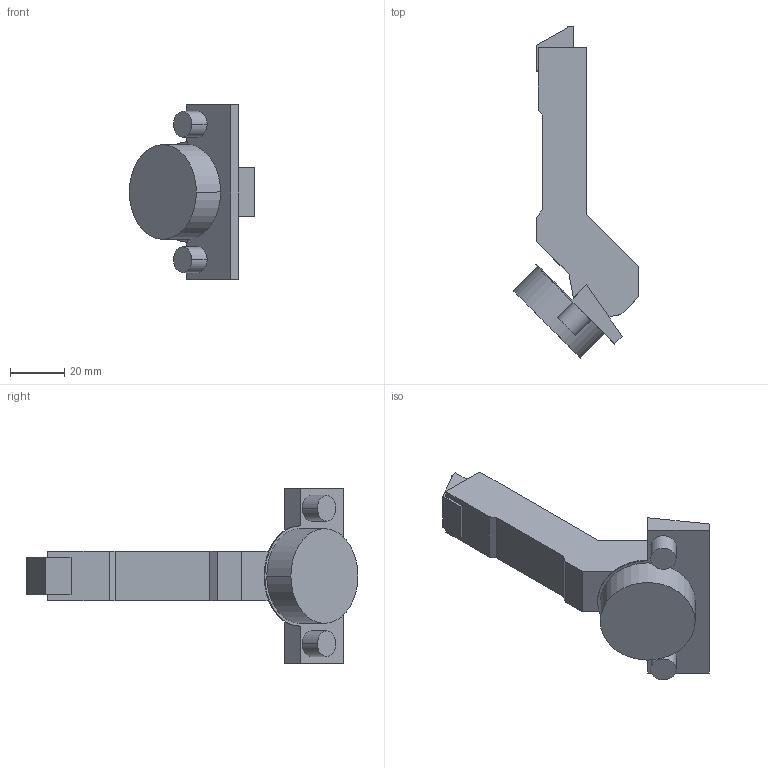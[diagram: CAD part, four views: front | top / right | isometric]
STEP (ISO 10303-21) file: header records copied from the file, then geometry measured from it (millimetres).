
FILE_DESCRIPTION (( 'STEP AP214' ), '1' );
FILE_NAME ('Scharnier TS Impresso 110°_+45° HS_BB, einliegend.step', '2010-12-13T10:22:25', ( 'grass' ), ( '' ), 'SwSTEP 2.0', 'SolidWorks 2010', '' );
FILE_SCHEMA (( 'AUTOMOTIVE_DESIGN' ));
Length unit declared in the file: millimetre
Products named in the file (1): Scharnier TS Impresso 110°_+45° HS_BB, einliegend
Bounding box: 46.28 x 122.48 x 64.5 mm (x, y, z)
Volume: 57363.5 mm3; surface area: 15034.3 mm2
Topology: 1 solids, 3 shells, 60 faces, 144 edges, 96 vertices
Faces by surface type: plane 43, cylinder 17
Entity records: 1772 total; most frequent: CARTESIAN_POINT 301, DIRECTION 300, ORIENTED_EDGE 288, EDGE_CURVE 144, VECTOR 110, LINE 110, VERTEX_POINT 96, AXIS2_PLACEMENT_3D 95
